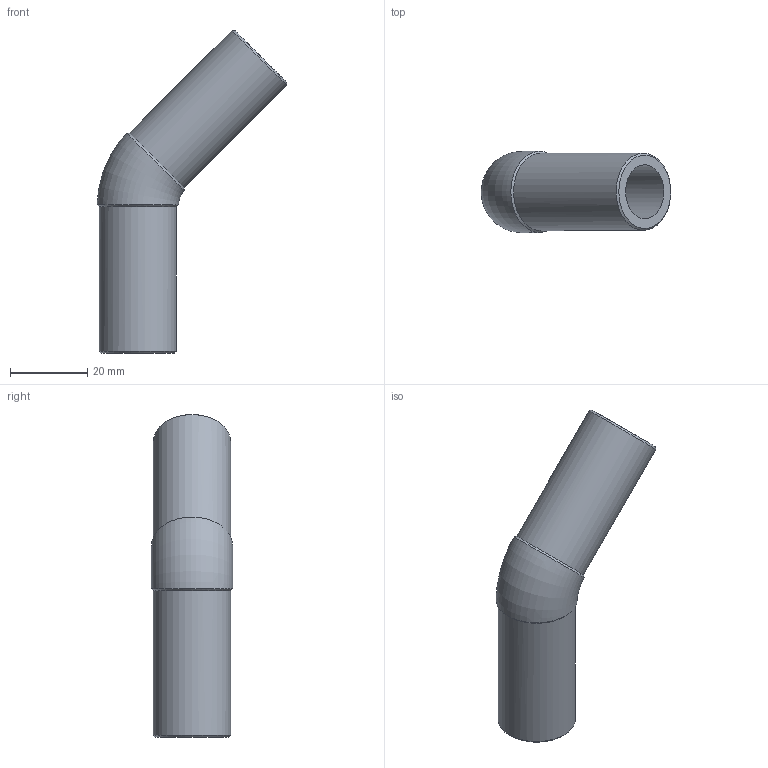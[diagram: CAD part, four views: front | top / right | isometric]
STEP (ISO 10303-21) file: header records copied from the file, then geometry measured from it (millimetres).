
FILE_DESCRIPTION(/* description */ ('Unknown'),/* implementation_level */ '2;1');
FILE_NAME(/* name */ 'G4P020C.H',/* time_stamp */ '2022-01-19T08:57:19+01:00',/* author */ ('Unknown'),/* organization */ ('Unknown'),/* preprocessor_version */ 'ST-DEVELOPER v18.1',/* originating_system */ 'Solid Edge',/* authorisation */ 'Unknown');
FILE_SCHEMA (('AUTOMOTIVE_DESIGN {1 0 10303 214 3 1 1}'));
Length unit declared in the file: millimetre
Products named in the file (1): G4P020C.H
Bounding box: 49.03 x 21 x 83.54 mm (x, y, z)
Volume: 14738.8 mm3; surface area: 9885 mm2
Topology: 1 solids, 1 shells, 12 faces, 30 edges, 20 vertices
Faces by surface type: cone 4, cylinder 4, plane 2, torus 2
Full cylindrical faces by diameter (mm): 14 x2, 20 x2
Entity records: 354 total; most frequent: CARTESIAN_POINT 94, DIRECTION 48, ORIENTED_EDGE 34, AXIS2_PLACEMENT_3D 24, EDGE_LOOP 23, FACE_BOUND 23, EDGE_CURVE 17, VERTEX_POINT 16
